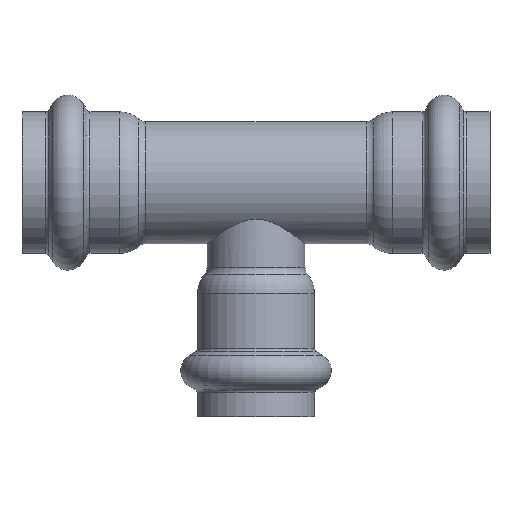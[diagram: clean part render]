
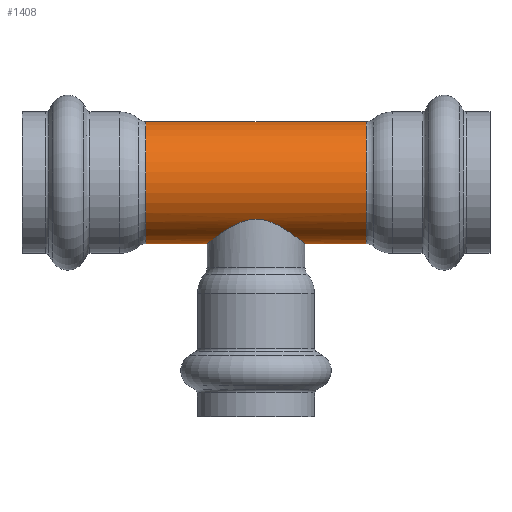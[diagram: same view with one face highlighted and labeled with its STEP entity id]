
A CAD part, top view. The second image highlights one B-rep face of the part: STEP entity #1408.
In plain terms, the highlighted cylindrical face has radius 13.335 mm (diameter 26.67 mm), a full revolution.
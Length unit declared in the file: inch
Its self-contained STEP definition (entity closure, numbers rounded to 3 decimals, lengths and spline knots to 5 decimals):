
#134=FACE_OUTER_BOUND('',#197,.T.);
#197=EDGE_LOOP('',(#1132,#1133,#1134,#1135,#1136,#1137,#1138,#1139,#1140,
#1141,#1142,#1143,#1144,#1145));
#334=CIRCLE('',#1605,0.525);
#335=CIRCLE('',#1606,0.525);
#336=CIRCLE('',#1607,0.525);
#337=CIRCLE('',#1609,0.525);
#338=CIRCLE('',#1610,0.525);
#339=CIRCLE('',#1611,0.525);
#420=LINE('',#2646,#450);
#421=LINE('',#2647,#451);
#450=VECTOR('',#2052,0.525);
#451=VECTOR('',#2053,0.525);
#460=B_SPLINE_CURVE_WITH_KNOTS('',3,(#2252,#2253,#2254,#2255,#2256,#2257,
#2258,#2259,#2260,#2261,#2262,#2263,#2264,#2265),.UNSPECIFIED.,.F.,.F.,
(4,2,2,2,2,2,4),(0.,0.21877,0.43754,0.87509,
1.29903,1.51099,1.72296),.UNSPECIFIED.);
#461=B_SPLINE_CURVE_WITH_KNOTS('',3,(#2267,#2268,#2269,#2270,#2271,#2272,
#2273,#2274,#2275,#2276,#2277,#2278,#2279,#2280),.UNSPECIFIED.,.F.,.F.,
(4,2,2,2,2,2,4),(5.16888,5.38085,5.59282,6.01676,
6.4543,6.67307,6.89185),.UNSPECIFIED.);
#462=B_SPLINE_CURVE_WITH_KNOTS('',3,(#2282,#2283,#2284,#2285,#2286,#2287,
#2288,#2289,#2290,#2291,#2292,#2293,#2294,#2295),.UNSPECIFIED.,.F.,.F.,
(4,2,2,2,2,2,4),(3.44592,3.6647,3.88347,4.32101,
4.74495,4.95692,5.16888),.UNSPECIFIED.);
#463=B_SPLINE_CURVE_WITH_KNOTS('',3,(#2301,#2302,#2303,#2304,#2305,#2306,
#2307,#2308,#2309,#2310,#2311,#2312,#2313,#2314),.UNSPECIFIED.,.F.,.F.,
(4,2,2,2,2,2,4),(1.72296,1.93493,2.1469,2.57083,
3.00838,3.22715,3.44592),.UNSPECIFIED.);
#468=VERTEX_POINT('',#2250);
#469=VERTEX_POINT('',#2251);
#470=VERTEX_POINT('',#2266);
#471=VERTEX_POINT('',#2281);
#572=VERTEX_POINT('',#2633);
#573=VERTEX_POINT('',#2635);
#574=VERTEX_POINT('',#2637);
#575=VERTEX_POINT('',#2641);
#576=VERTEX_POINT('',#2642);
#577=VERTEX_POINT('',#2644);
#628=EDGE_CURVE('',#468,#469,#460,.T.);
#629=EDGE_CURVE('',#470,#468,#461,.T.);
#630=EDGE_CURVE('',#471,#470,#462,.T.);
#634=EDGE_CURVE('',#469,#471,#463,.T.);
#772=EDGE_CURVE('',#573,#572,#334,.T.);
#773=EDGE_CURVE('',#574,#573,#335,.T.);
#774=EDGE_CURVE('',#572,#574,#336,.T.);
#775=EDGE_CURVE('',#575,#576,#337,.T.);
#776=EDGE_CURVE('',#577,#575,#338,.T.);
#777=EDGE_CURVE('',#577,#469,#420,.T.);
#778=EDGE_CURVE('',#470,#574,#421,.T.);
#779=EDGE_CURVE('',#576,#577,#339,.T.);
#1132=ORIENTED_EDGE('',*,*,#775,.F.);
#1133=ORIENTED_EDGE('',*,*,#776,.F.);
#1134=ORIENTED_EDGE('',*,*,#777,.T.);
#1135=ORIENTED_EDGE('',*,*,#634,.T.);
#1136=ORIENTED_EDGE('',*,*,#630,.T.);
#1137=ORIENTED_EDGE('',*,*,#778,.T.);
#1138=ORIENTED_EDGE('',*,*,#773,.T.);
#1139=ORIENTED_EDGE('',*,*,#772,.T.);
#1140=ORIENTED_EDGE('',*,*,#774,.T.);
#1141=ORIENTED_EDGE('',*,*,#778,.F.);
#1142=ORIENTED_EDGE('',*,*,#629,.T.);
#1143=ORIENTED_EDGE('',*,*,#628,.T.);
#1144=ORIENTED_EDGE('',*,*,#777,.F.);
#1145=ORIENTED_EDGE('',*,*,#779,.F.);
#1299=CYLINDRICAL_SURFACE('',#1608,0.525);
#1408=ADVANCED_FACE('',(#134),#1299,.T.);
#1605=AXIS2_PLACEMENT_3D('',#2636,#2040,#2041);
#1606=AXIS2_PLACEMENT_3D('',#2638,#2042,#2043);
#1607=AXIS2_PLACEMENT_3D('',#2639,#2044,#2045);
#1608=AXIS2_PLACEMENT_3D('',#2640,#2046,#2047);
#1609=AXIS2_PLACEMENT_3D('',#2643,#2048,#2049);
#1610=AXIS2_PLACEMENT_3D('',#2645,#2050,#2051);
#1611=AXIS2_PLACEMENT_3D('',#2648,#2054,#2055);
#2040=DIRECTION('center_axis',(1.,0.,0.));
#2041=DIRECTION('ref_axis',(0.,1.,0.));
#2042=DIRECTION('center_axis',(1.,0.,0.));
#2043=DIRECTION('ref_axis',(0.,1.,0.));
#2044=DIRECTION('center_axis',(1.,0.,0.));
#2045=DIRECTION('ref_axis',(0.,1.,0.));
#2046=DIRECTION('center_axis',(1.,0.,0.));
#2047=DIRECTION('ref_axis',(0.,1.,0.));
#2048=DIRECTION('center_axis',(1.,0.,0.));
#2049=DIRECTION('ref_axis',(0.,1.,0.));
#2050=DIRECTION('center_axis',(1.,0.,0.));
#2051=DIRECTION('ref_axis',(0.,1.,0.));
#2052=DIRECTION('',(-1.,0.,0.));
#2053=DIRECTION('',(-1.,0.,0.));
#2054=DIRECTION('center_axis',(1.,0.,0.));
#2055=DIRECTION('ref_axis',(0.,1.,0.));
#2250=CARTESIAN_POINT('',(0.,-0.315,0.42));
#2251=CARTESIAN_POINT('',(0.42,-0.525,0.));
#2252=CARTESIAN_POINT('Ctrl Pts',(0.,-0.315,0.42));
#2253=CARTESIAN_POINT('Ctrl Pts',(0.02871,-0.315,0.42));
#2254=CARTESIAN_POINT('Ctrl Pts',(0.05718,-0.31904,
0.41704));
#2255=CARTESIAN_POINT('Ctrl Pts',(0.11232,-0.33337,
0.40568));
#2256=CARTESIAN_POINT('Ctrl Pts',(0.13902,-0.34358,
0.39728));
#2257=CARTESIAN_POINT('Ctrl Pts',(0.21504,-0.37875,
0.36495));
#2258=CARTESIAN_POINT('Ctrl Pts',(0.26045,-0.40787,
0.33352));
#2259=CARTESIAN_POINT('Ctrl Pts',(0.33238,-0.45721,
0.26159));
#2260=CARTESIAN_POINT('Ctrl Pts',(0.36444,-0.48151,
0.21614));
#2261=CARTESIAN_POINT('Ctrl Pts',(0.39734,-0.507,
0.13895));
#2262=CARTESIAN_POINT('Ctrl Pts',(0.40586,-0.51375,
0.11173));
#2263=CARTESIAN_POINT('Ctrl Pts',(0.41719,-0.52275,
0.05616));
#2264=CARTESIAN_POINT('Ctrl Pts',(0.42,-0.525,0.02782));
#2265=CARTESIAN_POINT('Ctrl Pts',(0.42,-0.525,0.));
#2266=CARTESIAN_POINT('',(-0.42,-0.525,0.));
#2267=CARTESIAN_POINT('Ctrl Pts',(-0.42,-0.525,0.));
#2268=CARTESIAN_POINT('Ctrl Pts',(-0.42,-0.525,0.02782));
#2269=CARTESIAN_POINT('Ctrl Pts',(-0.41719,-0.52275,
0.05616));
#2270=CARTESIAN_POINT('Ctrl Pts',(-0.40586,-0.51375,
0.11173));
#2271=CARTESIAN_POINT('Ctrl Pts',(-0.39734,-0.507,
0.13895));
#2272=CARTESIAN_POINT('Ctrl Pts',(-0.36444,-0.48151,
0.21614));
#2273=CARTESIAN_POINT('Ctrl Pts',(-0.33238,-0.45721,
0.26159));
#2274=CARTESIAN_POINT('Ctrl Pts',(-0.26045,-0.40787,
0.33352));
#2275=CARTESIAN_POINT('Ctrl Pts',(-0.21504,-0.37875,
0.36495));
#2276=CARTESIAN_POINT('Ctrl Pts',(-0.13902,-0.34358,
0.39728));
#2277=CARTESIAN_POINT('Ctrl Pts',(-0.11232,-0.33337,
0.40568));
#2278=CARTESIAN_POINT('Ctrl Pts',(-0.05718,-0.31904,
0.41704));
#2279=CARTESIAN_POINT('Ctrl Pts',(-0.02871,-0.315,0.42));
#2280=CARTESIAN_POINT('Ctrl Pts',(0.,-0.315,0.42));
#2281=CARTESIAN_POINT('',(0.,-0.315,-0.42));
#2282=CARTESIAN_POINT('Ctrl Pts',(0.,-0.315,-0.42));
#2283=CARTESIAN_POINT('Ctrl Pts',(-0.02871,-0.315,-0.42));
#2284=CARTESIAN_POINT('Ctrl Pts',(-0.05718,-0.31904,
-0.41704));
#2285=CARTESIAN_POINT('Ctrl Pts',(-0.11232,-0.33337,
-0.40568));
#2286=CARTESIAN_POINT('Ctrl Pts',(-0.13902,-0.34358,
-0.39728));
#2287=CARTESIAN_POINT('Ctrl Pts',(-0.21504,-0.37875,
-0.36495));
#2288=CARTESIAN_POINT('Ctrl Pts',(-0.26045,-0.40787,
-0.33352));
#2289=CARTESIAN_POINT('Ctrl Pts',(-0.33238,-0.45721,
-0.26159));
#2290=CARTESIAN_POINT('Ctrl Pts',(-0.36444,-0.48151,
-0.21614));
#2291=CARTESIAN_POINT('Ctrl Pts',(-0.39734,-0.507,
-0.13895));
#2292=CARTESIAN_POINT('Ctrl Pts',(-0.40586,-0.51375,
-0.11173));
#2293=CARTESIAN_POINT('Ctrl Pts',(-0.41719,-0.52275,
-0.05616));
#2294=CARTESIAN_POINT('Ctrl Pts',(-0.42,-0.525,-0.02782));
#2295=CARTESIAN_POINT('Ctrl Pts',(-0.42,-0.525,0.));
#2301=CARTESIAN_POINT('Ctrl Pts',(0.42,-0.525,0.));
#2302=CARTESIAN_POINT('Ctrl Pts',(0.42,-0.525,-0.02782));
#2303=CARTESIAN_POINT('Ctrl Pts',(0.41719,-0.52275,
-0.05616));
#2304=CARTESIAN_POINT('Ctrl Pts',(0.40586,-0.51375,
-0.11173));
#2305=CARTESIAN_POINT('Ctrl Pts',(0.39734,-0.507,
-0.13895));
#2306=CARTESIAN_POINT('Ctrl Pts',(0.36444,-0.48151,
-0.21614));
#2307=CARTESIAN_POINT('Ctrl Pts',(0.33238,-0.45721,
-0.26159));
#2308=CARTESIAN_POINT('Ctrl Pts',(0.26045,-0.40787,
-0.33352));
#2309=CARTESIAN_POINT('Ctrl Pts',(0.21504,-0.37875,
-0.36495));
#2310=CARTESIAN_POINT('Ctrl Pts',(0.13902,-0.34358,
-0.39728));
#2311=CARTESIAN_POINT('Ctrl Pts',(0.11232,-0.33337,
-0.40568));
#2312=CARTESIAN_POINT('Ctrl Pts',(0.05718,-0.31904,
-0.41704));
#2313=CARTESIAN_POINT('Ctrl Pts',(0.02871,-0.315,-0.42));
#2314=CARTESIAN_POINT('Ctrl Pts',(0.,-0.315,-0.42));
#2633=CARTESIAN_POINT('',(-0.94528,0.,0.525));
#2635=CARTESIAN_POINT('',(-0.94528,0.525,0.));
#2636=CARTESIAN_POINT('Origin',(-0.94528,0.,0.));
#2637=CARTESIAN_POINT('',(-0.94528,-0.525,0.));
#2638=CARTESIAN_POINT('Origin',(-0.94528,0.,0.));
#2639=CARTESIAN_POINT('Origin',(-0.94528,0.,0.));
#2640=CARTESIAN_POINT('Origin',(0.47264,0.,0.));
#2641=CARTESIAN_POINT('',(0.94528,0.525,0.));
#2642=CARTESIAN_POINT('',(0.94528,0.,0.525));
#2643=CARTESIAN_POINT('Origin',(0.94528,0.,0.));
#2644=CARTESIAN_POINT('',(0.94528,-0.525,0.));
#2645=CARTESIAN_POINT('Origin',(0.94528,0.,0.));
#2646=CARTESIAN_POINT('',(0.47264,-0.525,0.));
#2647=CARTESIAN_POINT('',(0.47264,-0.525,0.));
#2648=CARTESIAN_POINT('Origin',(0.94528,0.,0.));
